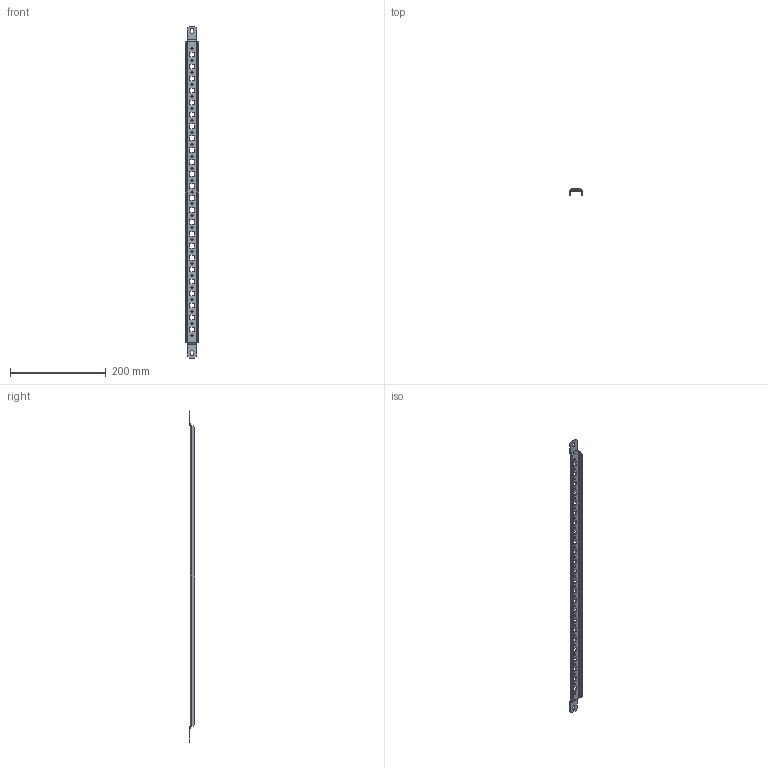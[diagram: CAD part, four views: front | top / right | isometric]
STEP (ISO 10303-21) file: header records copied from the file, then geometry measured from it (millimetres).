
FILE_DESCRIPTION (( 'STEP AP203' ), '1' );
FILE_NAME ('VB 80 GE Ðåéêà äëÿ ãëóõîé äâåðè v2.STEP', '2021-07-07T13:54:09', ( '' ), ( '' ), 'SwSTEP 2.0', 'SolidWorks 2018', '' );
FILE_SCHEMA (( 'CONFIG_CONTROL_DESIGN' ));
Length unit declared in the file: millimetre
Products named in the file (1): VB 80 GE Ðåéêà äëÿ ãëóõîé äâåðè v2
Bounding box: 27.5 x 12.42 x 694.31 mm (x, y, z)
Volume: 49385.5 mm3; surface area: 54896.6 mm2
Topology: 1 solids, 1 shells, 222 faces, 612 edges, 392 vertices
Faces by surface type: plane 154, cylinder 68
Entity records: 7269 total; most frequent: CARTESIAN_POINT 1227, ORIENTED_EDGE 1224, DIRECTION 1194, EDGE_CURVE 612, VECTOR 476, LINE 476, VERTEX_POINT 392, AXIS2_PLACEMENT_3D 359
